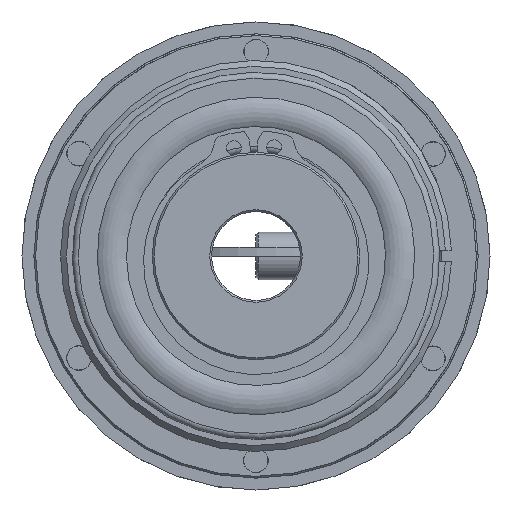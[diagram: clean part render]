
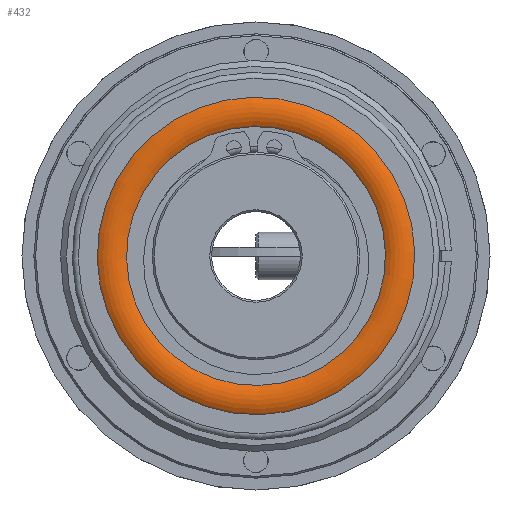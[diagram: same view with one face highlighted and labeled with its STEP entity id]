
A CAD part, left-side view. The second image highlights one B-rep face of the part: STEP entity #432.
In plain terms, the highlighted toroidal (fillet/blend) face has major radius 24.325 mm and minor radius 4.5 mm.
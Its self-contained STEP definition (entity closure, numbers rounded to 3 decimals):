
#432 = ADVANCED_FACE( '2771_PI1#E0', (  ), #654, .T. );
#654 = TOROIDAL_SURFACE( '', #1041, 24.325, 4.5 );
#1041 = AXIS2_PLACEMENT_3D( '', #1445, #1446, #1447 );
#1445 = CARTESIAN_POINT( '', ( 7., 0., 0. ) );
#1446 = DIRECTION( '', ( 1., 0., 0. ) );
#1447 = DIRECTION( '', ( 0., -1., 0. ) );
